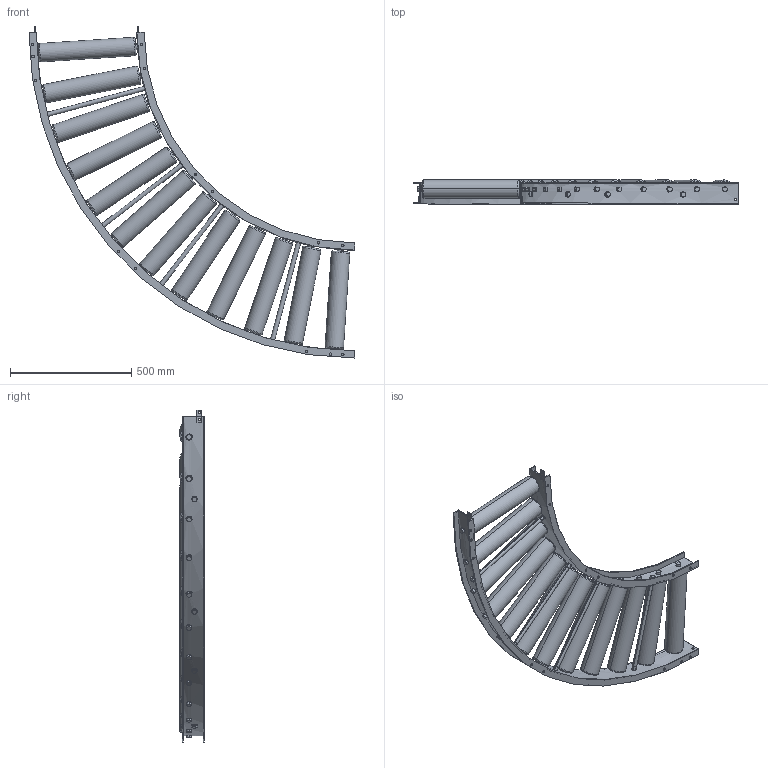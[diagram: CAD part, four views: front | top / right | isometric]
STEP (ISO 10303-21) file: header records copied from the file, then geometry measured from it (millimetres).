
FILE_DESCRIPTION (( 'STEP AP203' ), '1' );
FILE_NAME ('RBS-7642_C.step', '2024-03-15T02:38:05', ( '' ), ( '' ), 'SwSTEP 2.0', 'SolidWorks 2023', '' );
FILE_SCHEMA (( 'CONFIG_CONTROL_DESIGN' ));
Length unit declared in the file: millimetre
Products named in the file (1): RBS-7642_C
Bounding box: 1345 x 100.13 x 1370.12 mm (x, y, z)
Volume: 24553972.3 mm3; surface area: 3088026.6 mm2
Topology: 48 solids, 48 shells, 636 faces, 1428 edges, 920 vertices
Faces by surface type: cylinder 296, plane 244, cone 48, torus 48
Entity records: 23855 total; most frequent: CARTESIAN_POINT 9401, DIRECTION 3022, ORIENTED_EDGE 2856, EDGE_CURVE 1428, AXIS2_PLACEMENT_3D 1253, VERTEX_POINT 920, EDGE_LOOP 808, ADVANCED_FACE 636
